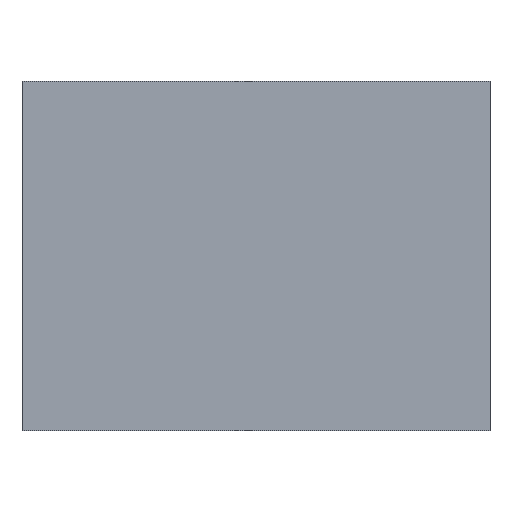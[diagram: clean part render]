
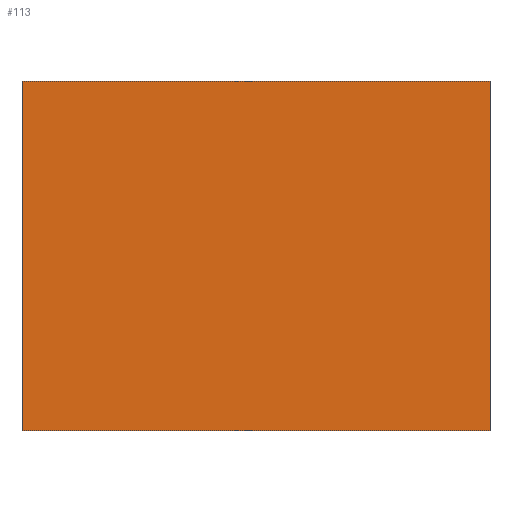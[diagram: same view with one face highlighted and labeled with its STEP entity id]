
A CAD part, front view. The second image highlights one B-rep face of the part: STEP entity #113.
In plain terms, the highlighted planar face has unit normal (0, -1, 0).
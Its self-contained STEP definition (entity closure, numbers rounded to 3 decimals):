
#4 = CARTESIAN_POINT ( 'NONE',  ( -196.75, 0., -146.75 ) ) ;
#7 = DIRECTION ( 'NONE',  ( 0., 0., 1. ) ) ;
#9 = CARTESIAN_POINT ( 'NONE',  ( 196.75, 0., -146.75 ) ) ;
#10 = VERTEX_POINT ( 'NONE', #89 ) ;
#30 = DIRECTION ( 'NONE',  ( 1., 0., 0. ) ) ;
#43 = LINE ( 'NONE', #44, #65 ) ;
#44 = CARTESIAN_POINT ( 'NONE',  ( 196.75, 0., 146.75 ) ) ;
#51 = CARTESIAN_POINT ( 'NONE',  ( -196.75, 0., 146.75 ) ) ;
#54 = VECTOR ( 'NONE', #103, 1000. ) ;
#56 = LINE ( 'NONE', #150, #54 ) ;
#65 = VECTOR ( 'NONE', #104, 1000. ) ;
#66 = VECTOR ( 'NONE', #98, 1000. ) ;
#71 = VECTOR ( 'NONE', #30, 1000. ) ;
#72 = LINE ( 'NONE', #51, #66 ) ;
#77 = LINE ( 'NONE', #197, #71 ) ;
#86 = ORIENTED_EDGE ( 'NONE', *, *, #225, .F. ) ;
#89 = CARTESIAN_POINT ( 'NONE',  ( 196.75, 0., 146.75 ) ) ;
#91 = ORIENTED_EDGE ( 'NONE', *, *, #226, .F. ) ;
#95 = PLANE ( 'NONE',  #138 ) ;
#98 = DIRECTION ( 'NONE',  ( 0., 0., 1. ) ) ;
#101 = VERTEX_POINT ( 'NONE', #9 ) ;
#103 = DIRECTION ( 'NONE',  ( -1., 0., 0. ) ) ;
#104 = DIRECTION ( 'NONE',  ( 0., 0., -1. ) ) ;
#113 = ADVANCED_FACE ( 'NONE', ( #160 ), #95, .F. ) ;
#116 = VERTEX_POINT ( 'NONE', #204 ) ;
#138 = AXIS2_PLACEMENT_3D ( 'NONE', #210, #209, #7 ) ;
#142 = EDGE_LOOP ( 'NONE', ( #86, #156, #91, #175 ) ) ;
#150 = CARTESIAN_POINT ( 'NONE',  ( 196.75, 0., -146.75 ) ) ;
#156 = ORIENTED_EDGE ( 'NONE', *, *, #236, .F. ) ;
#160 = FACE_OUTER_BOUND ( 'NONE', #142, .T. ) ;
#175 = ORIENTED_EDGE ( 'NONE', *, *, #221, .F. ) ;
#178 = VERTEX_POINT ( 'NONE', #4 ) ;
#197 = CARTESIAN_POINT ( 'NONE',  ( 196.75, 0., 146.75 ) ) ;
#204 = CARTESIAN_POINT ( 'NONE',  ( -196.75, 0., 146.75 ) ) ;
#209 = DIRECTION ( 'NONE',  ( 0., 1., 0. ) ) ;
#210 = CARTESIAN_POINT ( 'NONE',  ( 0., 0., 0. ) ) ;
#221 = EDGE_CURVE ( 'NONE', #116, #10, #77, .T. ) ;
#225 = EDGE_CURVE ( 'NONE', #178, #116, #72, .T. ) ;
#226 = EDGE_CURVE ( 'NONE', #10, #101, #43, .T. ) ;
#236 = EDGE_CURVE ( 'NONE', #101, #178, #56, .T. ) ;
